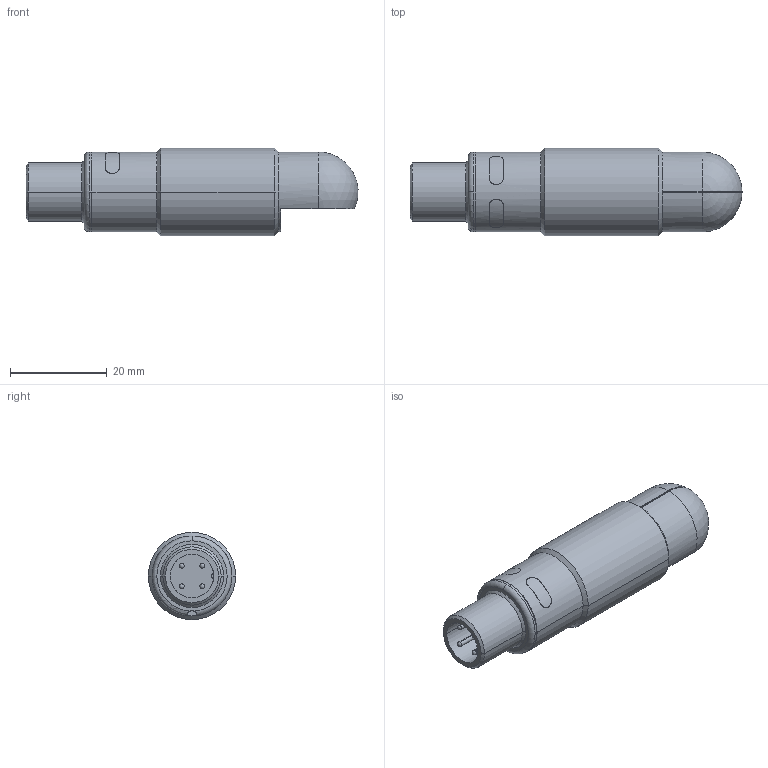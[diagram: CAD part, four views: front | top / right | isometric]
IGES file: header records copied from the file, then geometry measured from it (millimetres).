
Global section: file name: No Iges File Name specified; native system: Autodesk Inventor 2009; preprocessor: AutoDesk Inventor Iges Exporter R2009; author: Oliver Liedtke; date: 20120227.115420; units: millimetre
Bounding box: 68.48 x 18 x 18 mm (x, y, z)
Volume: 12695 mm3; surface area: 4016.4 mm2
Topology: 1 solids, 1 shells, 69 faces, 161 edges, 98 vertices
Faces by surface type: cylinder 25, plane 19, cone 8, sphere 6, revolution 5, bspline 4, torus 2
